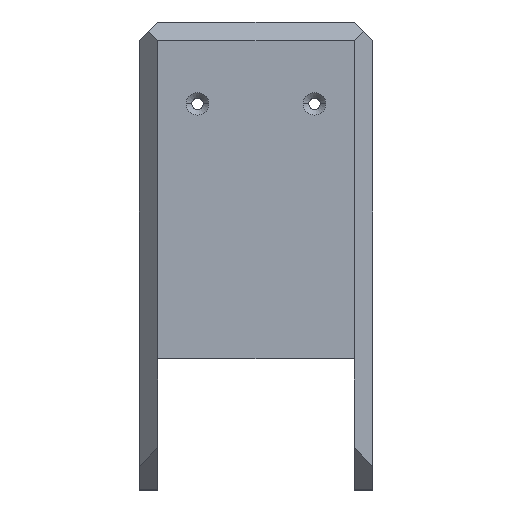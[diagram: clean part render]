
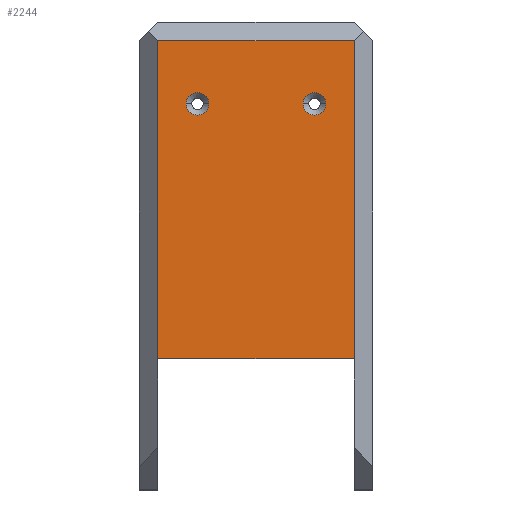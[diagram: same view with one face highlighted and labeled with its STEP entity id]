
A CAD part, top view. The second image highlights one B-rep face of the part: STEP entity #2244.
In plain terms, the highlighted planar face has unit normal (0, 0, 1).
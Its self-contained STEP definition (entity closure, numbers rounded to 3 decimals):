
#676=DIRECTION('',(1.,0.,0.));
#677=VECTOR('',#676,42.);
#678=CARTESIAN_POINT('',(-21.,-50.,21.5));
#679=LINE('',#678,#677);
#680=DIRECTION('',(0.,-1.,0.));
#681=VECTOR('',#680,68.);
#682=CARTESIAN_POINT('',(-21.,18.,21.5));
#683=LINE('',#682,#681);
#684=DIRECTION('',(-1.,0.,0.));
#685=VECTOR('',#684,42.);
#686=CARTESIAN_POINT('',(21.,18.,21.5));
#687=LINE('',#686,#685);
#688=DIRECTION('',(0.,-1.,0.));
#689=VECTOR('',#688,68.);
#690=CARTESIAN_POINT('',(21.,18.,21.5));
#691=LINE('',#690,#689);
#692=CARTESIAN_POINT('',(-12.5,4.5,21.5));
#693=DIRECTION('',(0.,0.,-1.));
#694=DIRECTION('',(-1.,0.,0.));
#695=AXIS2_PLACEMENT_3D('',#692,#693,#694);
#697=CARTESIAN_POINT('',(-12.5,4.5,21.5));
#698=DIRECTION('',(0.,0.,-1.));
#699=DIRECTION('',(1.,0.,0.));
#700=AXIS2_PLACEMENT_3D('',#697,#698,#699);
#702=CARTESIAN_POINT('',(12.5,4.5,21.5));
#703=DIRECTION('',(0.,0.,-1.));
#704=DIRECTION('',(-1.,0.,0.));
#705=AXIS2_PLACEMENT_3D('',#702,#703,#704);
#707=CARTESIAN_POINT('',(12.5,4.5,21.5));
#708=DIRECTION('',(0.,0.,-1.));
#709=DIRECTION('',(1.,0.,0.));
#710=AXIS2_PLACEMENT_3D('',#707,#708,#709);
#967=CARTESIAN_POINT('',(-21.,-50.,21.5));
#969=VERTEX_POINT('',#967);
#971=CARTESIAN_POINT('',(21.,-50.,21.5));
#973=VERTEX_POINT('',#971);
#1000=CARTESIAN_POINT('',(21.,18.,21.5));
#1001=CARTESIAN_POINT('',(-21.,18.,21.5));
#1002=VERTEX_POINT('',#1000);
#1003=VERTEX_POINT('',#1001);
#1130=CARTESIAN_POINT('',(-14.9,4.5,21.5));
#1131=CARTESIAN_POINT('',(-10.1,4.5,21.5));
#1132=VERTEX_POINT('',#1130);
#1133=VERTEX_POINT('',#1131);
#1138=CARTESIAN_POINT('',(10.1,4.5,21.5));
#1139=CARTESIAN_POINT('',(14.9,4.5,21.5));
#1140=VERTEX_POINT('',#1138);
#1141=VERTEX_POINT('',#1139);
#2220=CARTESIAN_POINT('',(-25.,-78.,21.5));
#2221=DIRECTION('',(0.,0.,1.));
#2222=DIRECTION('',(1.,0.,0.));
#2223=AXIS2_PLACEMENT_3D('',#2220,#2221,#2222);
#2224=PLANE('',#2223);
#2225=ORIENTED_EDGE('',*,*,#2209,.F.);
#2226=ORIENTED_EDGE('',*,*,#1871,.F.);
#2228=ORIENTED_EDGE('',*,*,#2227,.F.);
#2229=ORIENTED_EDGE('',*,*,#1543,.T.);
#2230=EDGE_LOOP('',(#2225,#2226,#2228,#2229));
#2231=FACE_OUTER_BOUND('',#2230,.F.);
#2233=ORIENTED_EDGE('',*,*,#2232,.F.);
#2235=ORIENTED_EDGE('',*,*,#2234,.F.);
#2236=EDGE_LOOP('',(#2233,#2235));
#2237=FACE_BOUND('',#2236,.F.);
#2239=ORIENTED_EDGE('',*,*,#2238,.F.);
#2241=ORIENTED_EDGE('',*,*,#2240,.F.);
#2242=EDGE_LOOP('',(#2239,#2241));
#2243=FACE_BOUND('',#2242,.F.);
#2244=ADVANCED_FACE('',(#2231,#2237,#2243),#2224,.T.);
#696=CIRCLE('',#695,2.4);
#701=CIRCLE('',#700,2.4);
#706=CIRCLE('',#705,2.4);
#711=CIRCLE('',#710,2.4);
#1543=EDGE_CURVE('',#1002,#973,#691,.T.);
#1871=EDGE_CURVE('',#1003,#969,#683,.T.);
#2209=EDGE_CURVE('',#969,#973,#679,.T.);
#2227=EDGE_CURVE('',#1002,#1003,#687,.T.);
#2232=EDGE_CURVE('',#1132,#1133,#696,.T.);
#2234=EDGE_CURVE('',#1133,#1132,#701,.T.);
#2238=EDGE_CURVE('',#1140,#1141,#706,.T.);
#2240=EDGE_CURVE('',#1141,#1140,#711,.T.);
